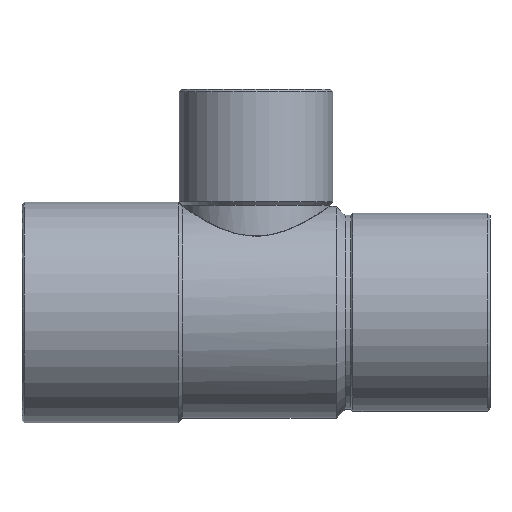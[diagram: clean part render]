
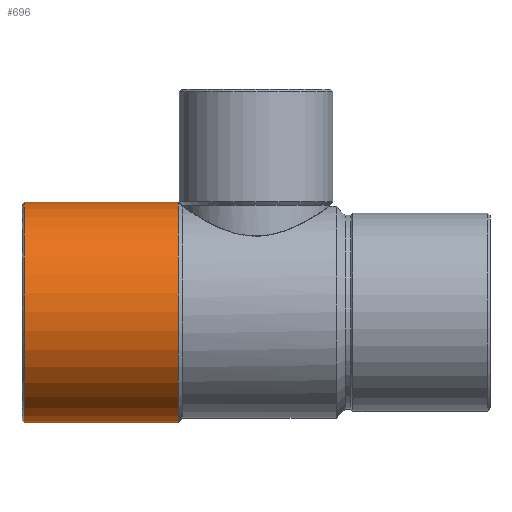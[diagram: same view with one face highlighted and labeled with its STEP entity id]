
A CAD part, top view. The second image highlights one B-rep face of the part: STEP entity #696.
In plain terms, the highlighted cylindrical face has radius 9.9 mm (diameter 19.8 mm), a partial arc.
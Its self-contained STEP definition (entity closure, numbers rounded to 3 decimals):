
#194=CARTESIAN_POINT('',(-7.,9.9,0.0));
#195=VERTEX_POINT('',#194);
#204=CARTESIAN_POINT('',(-7.,-9.9,0.));
#205=VERTEX_POINT('',#204);
#206=CARTESIAN_POINT('',(-7.,0.0,0.0));
#207=DIRECTION('',(1.0,0.0,0.0));
#208=DIRECTION('',(0.0,1.0,0.0));
#209=AXIS2_PLACEMENT_3D('',#206,#207,#208);
#210=CIRCLE('',#209,9.9);
#211=EDGE_CURVE('',#195,#205,#210,.T.);
#665=CARTESIAN_POINT('',(-14.,0.0,0.0));
#666=DIRECTION('',(1.0,0.0,0.0));
#667=DIRECTION('',(0.0,1.0,0.0));
#668=AXIS2_PLACEMENT_3D('',#665,#666,#667);
#669=CYLINDRICAL_SURFACE('',#668,9.9);
#670=CARTESIAN_POINT('',(-20.8,9.9,0.));
#671=VERTEX_POINT('',#670);
#672=CARTESIAN_POINT('',(-20.8,9.9,0.));
#673=DIRECTION('',(1.0,0.0,0.0));
#674=VECTOR('',#673,13.8);
#675=LINE('',#672,#674);
#676=EDGE_CURVE('',#671,#195,#675,.T.);
#677=ORIENTED_EDGE('',*,*,#676,.F.);
#678=CARTESIAN_POINT('',(-20.8,-9.9,0.));
#679=VERTEX_POINT('',#678);
#680=CARTESIAN_POINT('',(-20.8,0.0,0.0));
#681=DIRECTION('',(-1.0,0.0,0.0));
#682=DIRECTION('',(0.0,-1.0,0.0));
#683=AXIS2_PLACEMENT_3D('',#680,#681,#682);
#684=CIRCLE('',#683,9.9);
#685=EDGE_CURVE('',#679,#671,#684,.T.);
#686=ORIENTED_EDGE('',*,*,#685,.F.);
#687=CARTESIAN_POINT('',(-7.,-9.9,0.));
#688=DIRECTION('',(-1.0,0.0,0.0));
#689=VECTOR('',#688,13.8);
#690=LINE('',#687,#689);
#691=EDGE_CURVE('',#205,#679,#690,.T.);
#692=ORIENTED_EDGE('',*,*,#691,.F.);
#693=ORIENTED_EDGE('',*,*,#211,.F.);
#694=EDGE_LOOP('',(#677,#686,#692,#693));
#695=FACE_OUTER_BOUND('',#694,.T.);
#696=ADVANCED_FACE('',(#695),#669,.T.);
